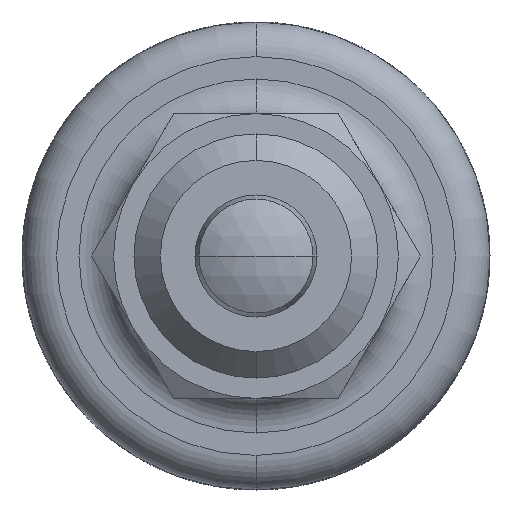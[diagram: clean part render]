
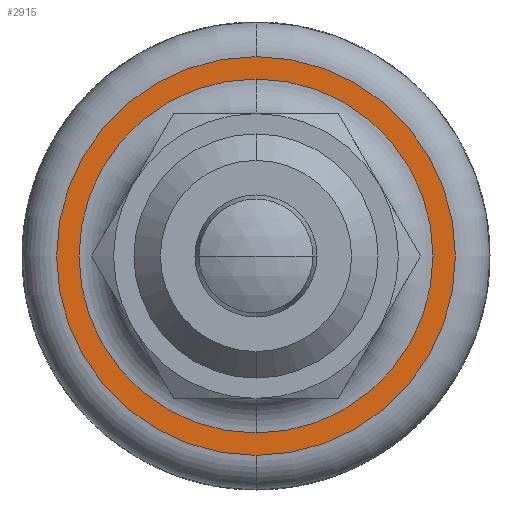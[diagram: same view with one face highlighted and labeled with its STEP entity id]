
A CAD part, front view. The second image highlights one B-rep face of the part: STEP entity #2915.
In plain terms, the highlighted planar face has unit normal (0, -1, 0).
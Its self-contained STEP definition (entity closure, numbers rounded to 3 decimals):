
#2101 = VERTEX_POINT ( 'NONE', #6953 ) ;
#2102 = VERTEX_POINT ( 'NONE', #6952 ) ;
#2153 = EDGE_CURVE ( 'NONE', #2154, #2155, #7061, .T. ) ;
#2154 = VERTEX_POINT ( 'NONE', #7053 ) ;
#2155 = VERTEX_POINT ( 'NONE', #7052 ) ;
#2180 = EDGE_CURVE ( 'NONE', #2101, #2102, #7087, .T. ) ;
#2829 = EDGE_LOOP ( 'NONE', ( #2830, #2832 ) ) ;
#2830 = ORIENTED_EDGE ( 'NONE', *, *, #2831, .T. ) ;
#2831 = EDGE_CURVE ( 'NONE', #2102, #2101, #8407, .T. ) ;
#2832 = ORIENTED_EDGE ( 'NONE', *, *, #2180, .T. ) ;
#2833 = EDGE_LOOP ( 'NONE', ( #2834, #2836 ) ) ;
#2834 = ORIENTED_EDGE ( 'NONE', *, *, #2835, .T. ) ;
#2835 = EDGE_CURVE ( 'NONE', #2155, #2154, #8402, .T. ) ;
#2836 = ORIENTED_EDGE ( 'NONE', *, *, #2153, .T. ) ;
#2915 = ADVANCED_FACE ( 'NONE', ( #8562, #8561 ), #8560, .F. ) ;
#6952 = CARTESIAN_POINT ( 'NONE',  ( 0., 13.3, 8.7 ) ) ;
#6953 = CARTESIAN_POINT ( 'NONE',  ( 0., 13.3, -8.7 ) ) ;
#7052 = CARTESIAN_POINT ( 'NONE',  ( 0., 13.3, 9.8 ) ) ;
#7053 = CARTESIAN_POINT ( 'NONE',  ( 0., 13.3, -9.8 ) ) ;
#7054 = DIRECTION ( 'NONE',  ( 0., 0., 1. ) ) ;
#7055 = DIRECTION ( 'NONE',  ( 0., -1., 0. ) ) ;
#7056 = CARTESIAN_POINT ( 'NONE',  ( 0., 13.3, 0. ) ) ;
#7057 = AXIS2_PLACEMENT_3D ( 'NONE', #7056, #7055, #7054 ) ;
#7061 = CIRCLE ( 'NONE', #7057, 9.8 ) ;
#7078 = DIRECTION ( 'NONE',  ( 0., 0., 1. ) ) ;
#7079 = DIRECTION ( 'NONE',  ( 0., 1., 0. ) ) ;
#7080 = CARTESIAN_POINT ( 'NONE',  ( 0., 13.3, 0. ) ) ;
#7081 = AXIS2_PLACEMENT_3D ( 'NONE', #7080, #7079, #7078 ) ;
#7087 = CIRCLE ( 'NONE', #7081, 8.7 ) ;
#8399 = DIRECTION ( 'NONE',  ( 0., 0., 1. ) ) ;
#8400 = DIRECTION ( 'NONE',  ( 0., -1., 0. ) ) ;
#8401 = AXIS2_PLACEMENT_3D ( 'NONE', #8408, #8400, #8399 ) ;
#8402 = CIRCLE ( 'NONE', #8401, 9.8 ) ;
#8403 = DIRECTION ( 'NONE',  ( 0., 0., 1. ) ) ;
#8404 = DIRECTION ( 'NONE',  ( 0., 1., 0. ) ) ;
#8405 = CARTESIAN_POINT ( 'NONE',  ( 0., 13.3, 0. ) ) ;
#8406 = AXIS2_PLACEMENT_3D ( 'NONE', #8405, #8404, #8403 ) ;
#8407 = CIRCLE ( 'NONE', #8406, 8.7 ) ;
#8408 = CARTESIAN_POINT ( 'NONE',  ( 0., 13.3, 0. ) ) ;
#8555 = DIRECTION ( 'NONE',  ( 0., 0., 1. ) ) ;
#8556 = DIRECTION ( 'NONE',  ( 0., 1., 0. ) ) ;
#8557 = CARTESIAN_POINT ( 'NONE',  ( 0., 13.3, 0. ) ) ;
#8558 = AXIS2_PLACEMENT_3D ( 'NONE', #8557, #8556, #8555 ) ;
#8560 = PLANE ( 'NONE',  #8558 ) ;
#8561 = FACE_OUTER_BOUND ( 'NONE', #2833, .T. ) ;
#8562 = FACE_BOUND ( 'NONE', #2829, .T. ) ;
